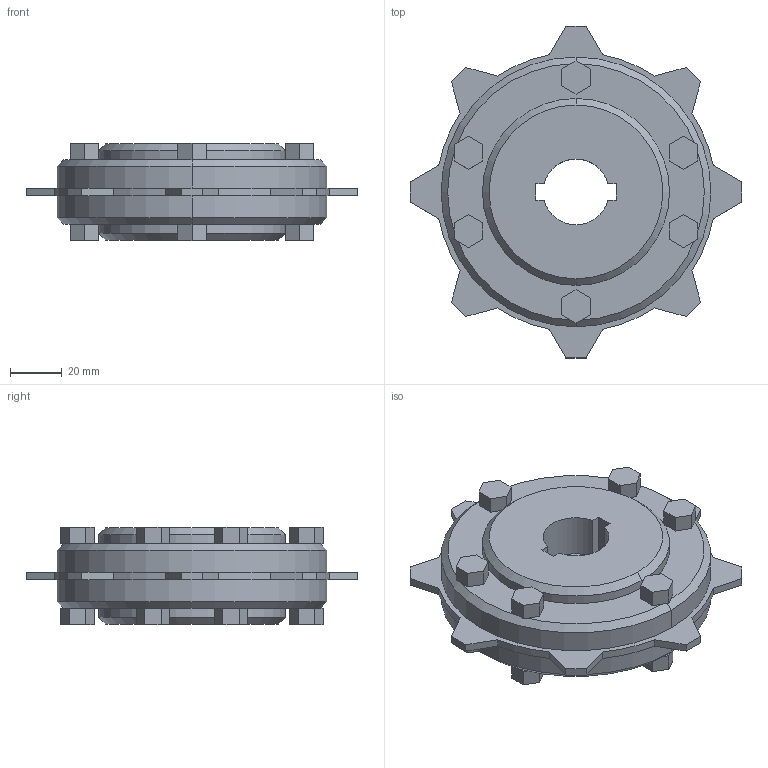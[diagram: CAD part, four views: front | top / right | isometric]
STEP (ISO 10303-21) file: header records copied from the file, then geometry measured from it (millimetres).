
FILE_DESCRIPTION((''),'2;1');
FILE_NAME('S400_SPL_METAL_52_ROUND_ASM','2008-12-12T',('jmumphre'),(''),'PRO/ENGINEER BY PARAMETRIC TECHNOLOGY CORPORATION, 2008150','PRO/ENGINEER BY PARAMETRIC TECHNOLOGY CORPORATION, 2008150','');
FILE_SCHEMA(('CONFIG_CONTROL_DESIGN'));
Length unit declared in the file: inch
Products named in the file (5): S400_TP_METAL_52X26_SQ_AF1; JOINING_PLATE_5_ROUND_AF0; JOINING_PLATE_5_ROUND_AF1; BOLTS_N_NUTS_3-480X0-980_AF0; S400_SPL_METAL_52_ROUND_ASM
Assembly tree (4 placements, depth 2):
  S400_SPL_METAL_52_ROUND_ASM
    S400_TP_METAL_52X26_SQ_AF1
    JOINING_PLATE_5_ROUND_AF0
    JOINING_PLATE_5_ROUND_AF1
    BOLTS_N_NUTS_3-480X0-980_AF0
Bounding box: 128.18 x 128.18 x 37.59 mm (x, y, z)
Volume: 239984.7 mm3; surface area: 67243.1 mm2
Topology: 9 solids, 9 shells, 220 faces, 556 edges, 368 vertices
Faces by surface type: plane 144, cylinder 68, cone 8
Entity records: 6813 total; most frequent: DIRECTION 1158, CARTESIAN_POINT 1153, ORIENTED_EDGE 1112, EDGE_CURVE 556, VECTOR 412, LINE 412, AXIS2_PLACEMENT_3D 373, VERTEX_POINT 368
